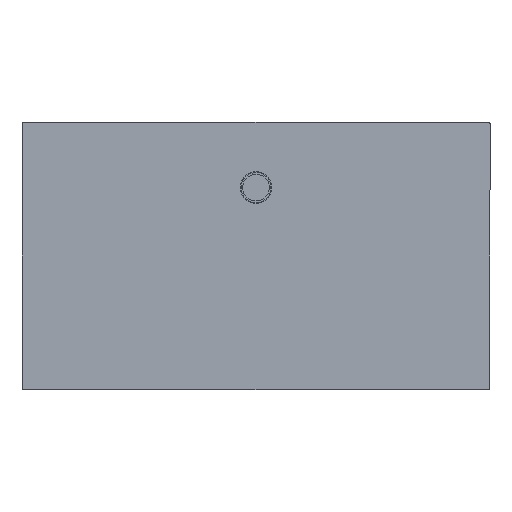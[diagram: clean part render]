
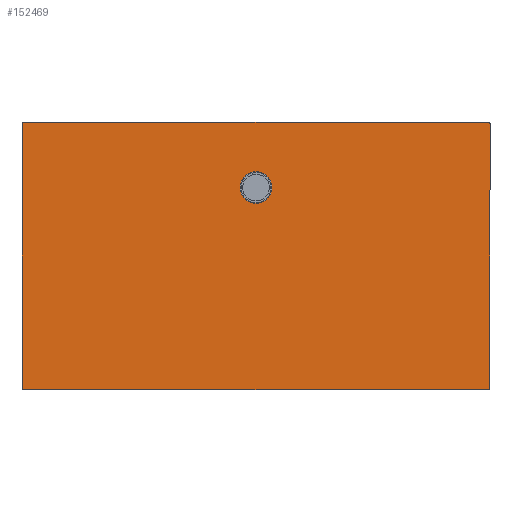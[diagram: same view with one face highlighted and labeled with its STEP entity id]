
A CAD part, front view. The second image highlights one B-rep face of the part: STEP entity #152469.
In plain terms, the highlighted planar face has unit normal (0, -1, 0).
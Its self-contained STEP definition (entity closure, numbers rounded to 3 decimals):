
#122 = ORIENTED_EDGE ( 'NONE', *, *, #152400, .F. ) ;
#3508 = DIRECTION ( 'NONE',  ( 0., 0., 1. ) ) ;
#19524 = DIRECTION ( 'NONE',  ( 0., 1., 0. ) ) ;
#20957 = CARTESIAN_POINT ( 'NONE',  ( 700.698, -40., 190.699 ) ) ;
#23036 = DIRECTION ( 'NONE',  ( -1., 0., 0. ) ) ;
#25709 = CARTESIAN_POINT ( 'NONE',  ( -700., -40., 195. ) ) ;
#29852 = VERTEX_POINT ( 'NONE', #121356 ) ;
#33264 = CARTESIAN_POINT ( 'NONE',  ( -695.699, -40., 195.698 ) ) ;
#41227 = VERTEX_POINT ( 'NONE', #148724 ) ;
#42049 = DIRECTION ( 'NONE',  ( 0., 1., 0. ) ) ;
#43108 = EDGE_CURVE ( 'NONE', #29852, #263535, #106753, .T. ) ;
#43545 = EDGE_LOOP ( 'NONE', ( #62912, #89527, #122, #250579, #139187, #195331, #67934, #69279 ) ) ;
#50388 = CARTESIAN_POINT ( 'NONE',  ( 700.698, -40., -600.699 ) ) ;
#51346 =( BOUNDED_CURVE ( )  B_SPLINE_CURVE ( 3, ( #50388, #125405, #63029, #126735 ),
 .UNSPECIFIED., .F., .T. ) 
 B_SPLINE_CURVE_WITH_KNOTS ( ( 4, 4 ),
 ( 2.356, 3.927 ),
 .UNSPECIFIED. ) 
 CURVE ( )  GEOMETRIC_REPRESENTATION_ITEM ( )  RATIONAL_B_SPLINE_CURVE ( ( 1., 0.805, 0.805, 1. ) ) 
 REPRESENTATION_ITEM ( '' )  );
#52961 = VERTEX_POINT ( 'NONE', #216028 ) ;
#57524 = DIRECTION ( 'NONE',  ( 0., 0., 1. ) ) ;
#61864 = CARTESIAN_POINT ( 'NONE',  ( -700., -40., 195.698 ) ) ;
#62912 = ORIENTED_EDGE ( 'NONE', *, *, #267662, .F. ) ;
#63029 = CARTESIAN_POINT ( 'NONE',  ( 698.628, -40., -605.698 ) ) ;
#66701 = EDGE_CURVE ( 'NONE', #204522, #52961, #51346, .T. ) ;
#67934 = ORIENTED_EDGE ( 'NONE', *, *, #122448, .F. ) ;
#69279 = ORIENTED_EDGE ( 'NONE', *, *, #162181, .T. ) ;
#80913 = LINE ( 'NONE', #61864, #251107 ) ;
#89397 = LINE ( 'NONE', #150391, #255570 ) ;
#89527 = ORIENTED_EDGE ( 'NONE', *, *, #142945, .T. ) ;
#94875 = DIRECTION ( 'NONE',  ( 1., 0., 0. ) ) ;
#103210 =( BOUNDED_CURVE ( )  B_SPLINE_CURVE ( 3, ( #233027, #181398, #264073, #161070 ),
 .UNSPECIFIED., .F., .T. ) 
 B_SPLINE_CURVE_WITH_KNOTS ( ( 4, 4 ),
 ( 2.356, 3.927 ),
 .UNSPECIFIED. ) 
 CURVE ( )  GEOMETRIC_REPRESENTATION_ITEM ( )  RATIONAL_B_SPLINE_CURVE ( ( 1., 0.805, 0.805, 1. ) ) 
 REPRESENTATION_ITEM ( '' )  );
#105902 = VERTEX_POINT ( 'NONE', #33264 ) ;
#106525 = LINE ( 'NONE', #189191, #259829 ) ;
#106753 =( BOUNDED_CURVE ( )  B_SPLINE_CURVE ( 3, ( #249398, #188388, #229070, #206095 ),
 .UNSPECIFIED., .F., .T. ) 
 B_SPLINE_CURVE_WITH_KNOTS ( ( 4, 4 ),
 ( 2.356, 3.927 ),
 .UNSPECIFIED. ) 
 CURVE ( )  GEOMETRIC_REPRESENTATION_ITEM ( )  RATIONAL_B_SPLINE_CURVE ( ( 1., 0.805, 0.805, 1. ) ) 
 REPRESENTATION_ITEM ( '' )  );
#108330 = AXIS2_PLACEMENT_3D ( 'NONE', #25709, #42049, #211406 ) ;
#109487 = DIRECTION ( 'NONE',  ( 0., 0., 1. ) ) ;
#109736 = FACE_OUTER_BOUND ( 'NONE', #43545, .T. ) ;
#121356 = CARTESIAN_POINT ( 'NONE',  ( 695.699, -40., 195.698 ) ) ;
#122448 = EDGE_CURVE ( 'NONE', #105902, #29852, #80913, .T. ) ;
#125405 = CARTESIAN_POINT ( 'NONE',  ( 700.698, -40., -603.628 ) ) ;
#125567 = CARTESIAN_POINT ( 'NONE',  ( -695.699, -40., -605.698 ) ) ;
#126735 = CARTESIAN_POINT ( 'NONE',  ( 695.699, -40., -605.698 ) ) ;
#132574 = CARTESIAN_POINT ( 'NONE',  ( -695.699, -40., -605.698 ) ) ;
#134657 = CIRCLE ( 'NONE', #251494, 47.5 ) ;
#135839 = EDGE_CURVE ( 'NONE', #204522, #263535, #106525, .T. ) ;
#139187 = ORIENTED_EDGE ( 'NONE', *, *, #135839, .T. ) ;
#142945 = EDGE_CURVE ( 'NONE', #189952, #202955, #172124, .T. ) ;
#148724 = CARTESIAN_POINT ( 'NONE',  ( -700.698, -40., 190.699 ) ) ;
#150391 = CARTESIAN_POINT ( 'NONE',  ( -700., -40., -605.698 ) ) ;
#151913 = EDGE_LOOP ( 'NONE', ( #190825 ) ) ;
#152400 = EDGE_CURVE ( 'NONE', #52961, #202955, #89397, .T. ) ;
#152469 = ADVANCED_FACE ( 'NONE', ( #168041, #109736 ), #250716, .F. ) ;
#156117 = VERTEX_POINT ( 'NONE', #240115 ) ;
#156324 = VECTOR ( 'NONE', #109487, 1000. ) ;
#157375 = CARTESIAN_POINT ( 'NONE',  ( -700.698, -40., -600.699 ) ) ;
#161070 = CARTESIAN_POINT ( 'NONE',  ( -700.698, -40., 190.699 ) ) ;
#162181 = EDGE_CURVE ( 'NONE', #105902, #41227, #103210, .T. ) ;
#168041 = FACE_BOUND ( 'NONE', #151913, .T. ) ;
#170489 = LINE ( 'NONE', #253167, #156324 ) ;
#172124 =( BOUNDED_CURVE ( )  B_SPLINE_CURVE ( 3, ( #246248, #224585, #267901, #125567 ),
 .UNSPECIFIED., .F., .T. ) 
 B_SPLINE_CURVE_WITH_KNOTS ( ( 4, 4 ),
 ( 2.356, 3.927 ),
 .UNSPECIFIED. ) 
 CURVE ( )  GEOMETRIC_REPRESENTATION_ITEM ( )  RATIONAL_B_SPLINE_CURVE ( ( 1., 0.805, 0.805, 1. ) ) 
 REPRESENTATION_ITEM ( '' )  );
#173938 = CARTESIAN_POINT ( 'NONE',  ( 700.698, -40., -600.699 ) ) ;
#181398 = CARTESIAN_POINT ( 'NONE',  ( -698.628, -40., 195.698 ) ) ;
#188388 = CARTESIAN_POINT ( 'NONE',  ( 698.628, -40., 195.698 ) ) ;
#189191 = CARTESIAN_POINT ( 'NONE',  ( 700.698, -40., 195. ) ) ;
#189952 = VERTEX_POINT ( 'NONE', #157375 ) ;
#190825 = ORIENTED_EDGE ( 'NONE', *, *, #224368, .T. ) ;
#195331 = ORIENTED_EDGE ( 'NONE', *, *, #43108, .F. ) ;
#202955 = VERTEX_POINT ( 'NONE', #132574 ) ;
#204522 = VERTEX_POINT ( 'NONE', #173938 ) ;
#206095 = CARTESIAN_POINT ( 'NONE',  ( 700.698, -40., 190.699 ) ) ;
#211406 = DIRECTION ( 'NONE',  ( 0., 0., 1. ) ) ;
#216028 = CARTESIAN_POINT ( 'NONE',  ( 695.699, -40., -605.698 ) ) ;
#224368 = EDGE_CURVE ( 'NONE', #156117, #156117, #134657, .T. ) ;
#224585 = CARTESIAN_POINT ( 'NONE',  ( -700.698, -40., -603.628 ) ) ;
#229070 = CARTESIAN_POINT ( 'NONE',  ( 700.698, -40., 193.628 ) ) ;
#233027 = CARTESIAN_POINT ( 'NONE',  ( -695.699, -40., 195.698 ) ) ;
#240115 = CARTESIAN_POINT ( 'NONE',  ( 0., -40., 47.5 ) ) ;
#246248 = CARTESIAN_POINT ( 'NONE',  ( -700.698, -40., -600.699 ) ) ;
#247202 = CARTESIAN_POINT ( 'NONE',  ( 0., -40., 0. ) ) ;
#249398 = CARTESIAN_POINT ( 'NONE',  ( 695.699, -40., 195.698 ) ) ;
#250579 = ORIENTED_EDGE ( 'NONE', *, *, #66701, .F. ) ;
#250716 = PLANE ( 'NONE',  #108330 ) ;
#251107 = VECTOR ( 'NONE', #94875, 1000. ) ;
#251494 = AXIS2_PLACEMENT_3D ( 'NONE', #247202, #19524, #57524 ) ;
#253167 = CARTESIAN_POINT ( 'NONE',  ( -700.698, -40., 195. ) ) ;
#255570 = VECTOR ( 'NONE', #23036, 1000. ) ;
#259829 = VECTOR ( 'NONE', #3508, 1000. ) ;
#263535 = VERTEX_POINT ( 'NONE', #20957 ) ;
#264073 = CARTESIAN_POINT ( 'NONE',  ( -700.698, -40., 193.628 ) ) ;
#267662 = EDGE_CURVE ( 'NONE', #189952, #41227, #170489, .T. ) ;
#267901 = CARTESIAN_POINT ( 'NONE',  ( -698.628, -40., -605.698 ) ) ;
